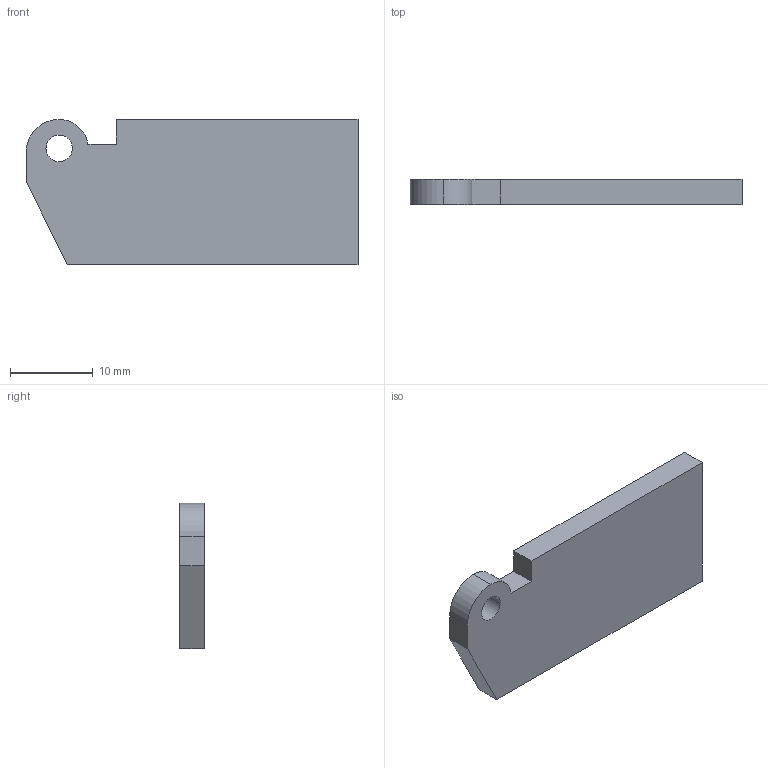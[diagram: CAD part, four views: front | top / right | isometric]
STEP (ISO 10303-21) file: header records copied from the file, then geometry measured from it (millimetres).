
FILE_DESCRIPTION(/* description */ (''),/* implementation_level */ '2;1');
FILE_NAME(/* name */ '1-27-1 Battery clamp.step',/* time_stamp */ '2025-05-10T21:35:19+02:00',/* author */ (''),/* organization */ (''),/* preprocessor_version */ 'ST-DEVELOPER v20.1',/* originating_system */ 'Autodesk Translation Framework v14.4.0.0',/* authorisation */ '');
FILE_SCHEMA (('AUTOMOTIVE_DESIGN { 1 0 10303 214 3 1 1 }'));
Length unit declared in the file: millimetre
Products named in the file (1): 1-27-1 Battery clamp
Bounding box: 40 x 3 x 17.5 mm (x, y, z)
Volume: 1952.1 mm3; surface area: 1673.6 mm2
Topology: 1 solids, 1 shells, 12 faces, 30 edges, 20 vertices
Faces by surface type: plane 9, cylinder 3
Full cylindrical faces by diameter (mm): 3.2 x1
Entity records: 404 total; most frequent: CARTESIAN_POINT 63, DIRECTION 62, ORIENTED_EDGE 60, EDGE_CURVE 30, LINE 24, VECTOR 24, VERTEX_POINT 20, AXIS2_PLACEMENT_3D 19
